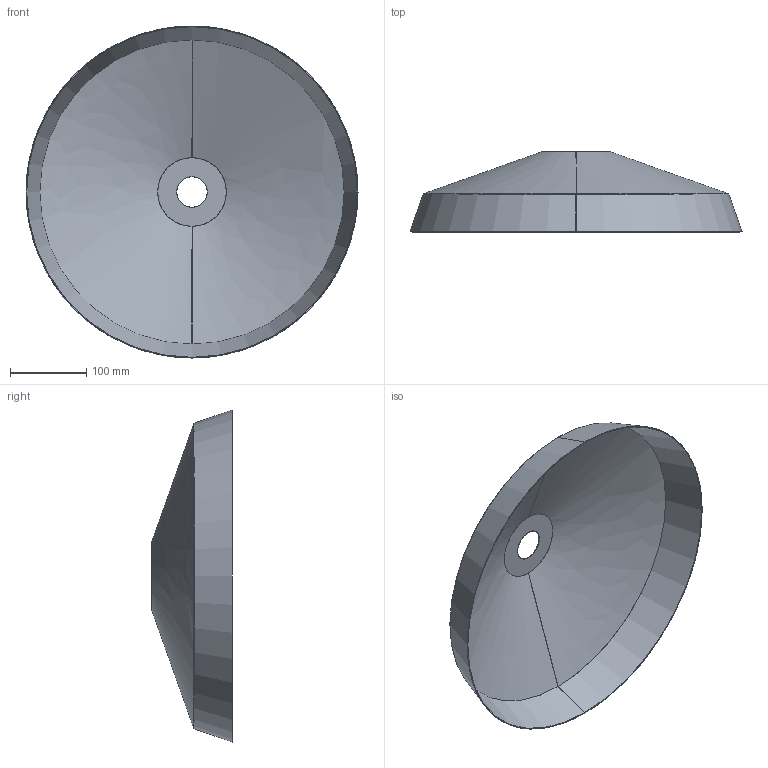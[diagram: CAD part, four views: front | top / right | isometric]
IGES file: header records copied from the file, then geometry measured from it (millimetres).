
Start section: SolidWorks IGES file using analytic representation for surfaces
Global section: file name: \\srvficheros\grupos\DISENYO\DESARROLLO DE PRODUCTO\_3D_WEB\EVELYN-1CAM3906\EVELYN-1CAM3906.IGS; native system: SolidWorks 2025; preprocessor: SolidWorks 2025; author: d.pons; date: 260113.122228; units: millimetre
Bounding box: 435 x 105 x 435 mm (x, y, z)
Surface area: 401663.3 mm2 (no closed solid volume)
Topology: 0 solids, 0 shells, 13 faces, 424 edges, 424 vertices
Faces by surface type: revolution 10, bspline 3
